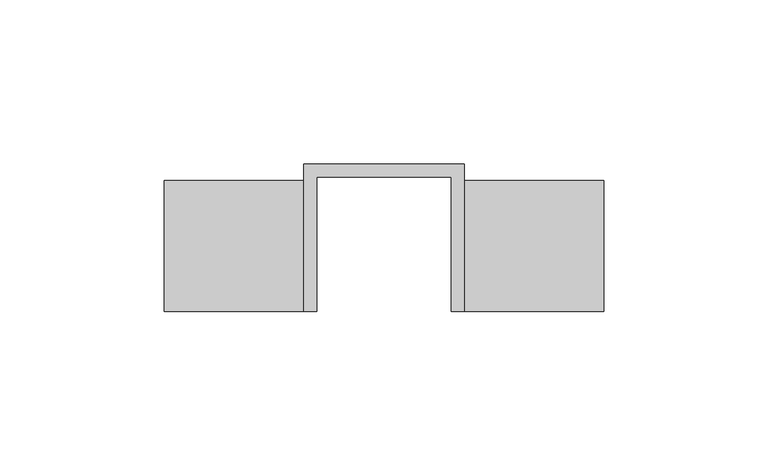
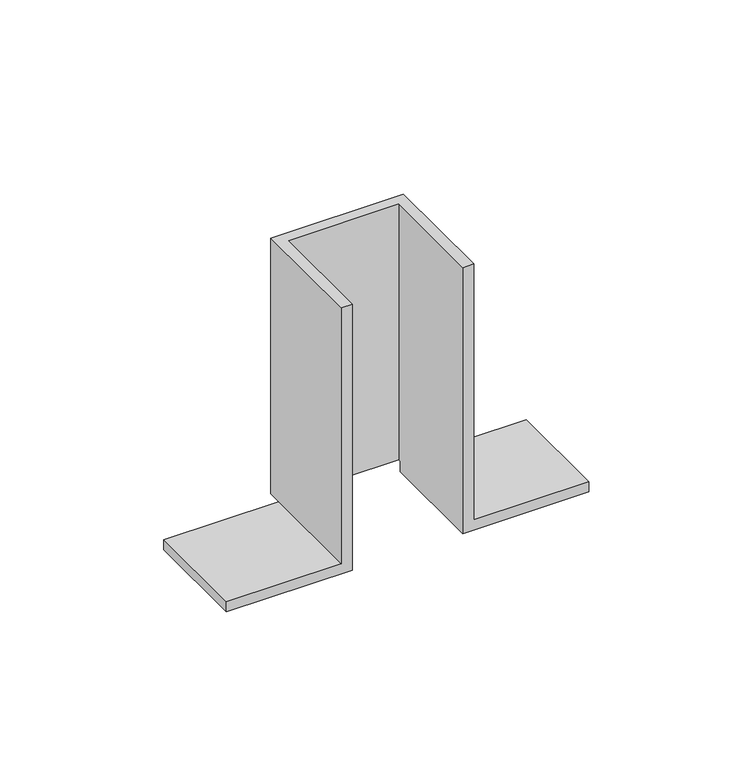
"""IFC4 building model written with IfcOpenShell, lengths in millimetres: proxy geometry, SBL41_Base holder-Basorfix : Basorfix SBL41 GC70."""

from ifc_helpers import new_model, si_unit, origin, place, context, project, spatial, faceted_brep, source, transform, mapped, element, save


def generic_models_36682113(model_context):
    return source(origin(), model_context, "Body", "Brep", [
        faceted_brep([(-20.5, -20.0, 104.0), (-20.5, 21.0, 104.0), (20.5, 21.0, 104.0), (20.5, -20.0, 104.0), (24.5, -20.0, 104.0), (24.5, 25.0, 104.0), (-24.5, 25.0, 104.0), (-24.5, -20.0, 104.0), (-24.5, 25.0, 4.0), (24.5, 25.0, 4.0), (24.5, 20.0, 4.0), (20.5, 20.0, 4.0), (20.5, 21.0, 4.0), (-20.5, 21.0, 4.0), (-20.5, 20.0, 4.0), (-24.5, 20.0, 4.0), (-20.5, -20.0, 0.0), (-20.5, 20.0, 0.0), (20.5, 20.0, 0.0), (20.5, -20.0, 0.0), (66.9802206, -20.0, 0.0), (66.9802206, -20.0, 4.0), (24.5, -20.0, 4.0), (-24.5, -20.0, 4.0), (-66.9802206, -20.0, 4.0), (-66.9802206, -20.0, 0.0), (-66.9802206, 20.0, 4.0), (66.9802206, 20.0, 4.0), (66.9802206, 20.0, 0.0), (-66.9802206, 20.0, 0.0)], [[[0, 1, 2, 3, 4, 5, 6, 7]], [[8, 9, 10, 11, 12, 13, 14, 15]], [[1, 0, 16, 17, 14, 13]], [[2, 1, 13, 12]], [[3, 2, 12, 11, 18, 19]], [[4, 3, 19, 20, 21, 22]], [[5, 4, 22, 10, 9]], [[6, 5, 9, 8]], [[7, 6, 8, 15, 23]], [[16, 0, 7, 23, 24, 25]], [[26, 24, 23, 15]], [[21, 27, 10, 22]], [[20, 19, 18, 28]], [[29, 17, 16, 25]], [[24, 26, 29, 25]], [[27, 21, 20, 28]], [[28, 18, 11, 10, 27]], [[17, 29, 26, 15, 14]]]),
    ])


if __name__ == "__main__":
    model = new_model("IFC4")
    model_context = context("Model", 3, world=origin())
    ifc_project = project(units=[si_unit("LENGTHUNIT", "METRE", prefix="MILLI")], contexts=[model_context])
    site = spatial("IfcSite", under=ifc_project)
    building = spatial("IfcBuilding", under=site)
    placement = place(None, origin())
    generic_models_shape = generic_models_36682113(model_context)
    element("IfcBuildingElementProxy", 1, Name="SBL41_Base holder-Basorfix : Basorfix SBL41 GC70", ObjectType="SBL41_Base holder-Basorfix : Basorfix SBL41 GC70", at=placement, inside=building, context=model_context, shape_type="MappedRepresentation", body=[
        mapped(generic_models_shape, transform((0.0, 0.0, 0.0), x_axis=(1.0, 0.0, 0.0), y_axis=(0.0, 1.0, 0.0), z_axis=(0.0, 0.0, 1.0))),
    ])
    save(model, "model.ifc")
